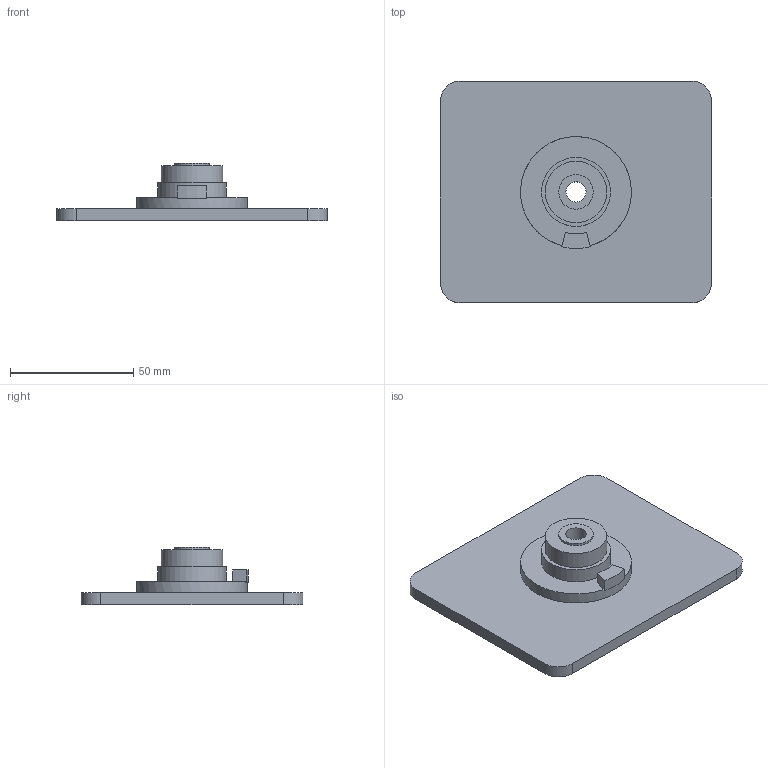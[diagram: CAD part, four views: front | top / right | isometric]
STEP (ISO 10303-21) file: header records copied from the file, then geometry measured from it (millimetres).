
FILE_DESCRIPTION(('Open CASCADE Model'),'2;1');
FILE_NAME('Open CASCADE Shape Model','2026-11-23T18:10:05',('Author'),( 'Open CASCADE'),'Open CASCADE STEP processor 8.0','build123d', 'Unknown');
FILE_SCHEMA(('AUTOMOTIVE_DESIGN { 1 0 10303 214 1 1 1 1 }'));
Length unit declared in the file: millimetre
Products named in the file (1): SOLID
Bounding box: 110 x 90 x 23.5 mm (x, y, z)
Volume: 60675.5 mm3; surface area: 24267.8 mm2
Topology: 1 solids, 1 shells, 29 faces, 64 edges, 42 vertices
Faces by surface type: plane 15, cylinder 13, cone 1
Full cylindrical faces by diameter (mm): 8.2 x1, 14 x1, 17.5 x1, 21 x1, 24.96 x1, 28 x1, 45 x1
Entity records: 1644 total; most frequent: CARTESIAN_POINT 312, DIRECTION 252, ORIENTED_EDGE 128, PCURVE 128, DEFINITIONAL_REPRESENTATION 128, LINE 114, VECTOR 114, EDGE_CURVE 64
